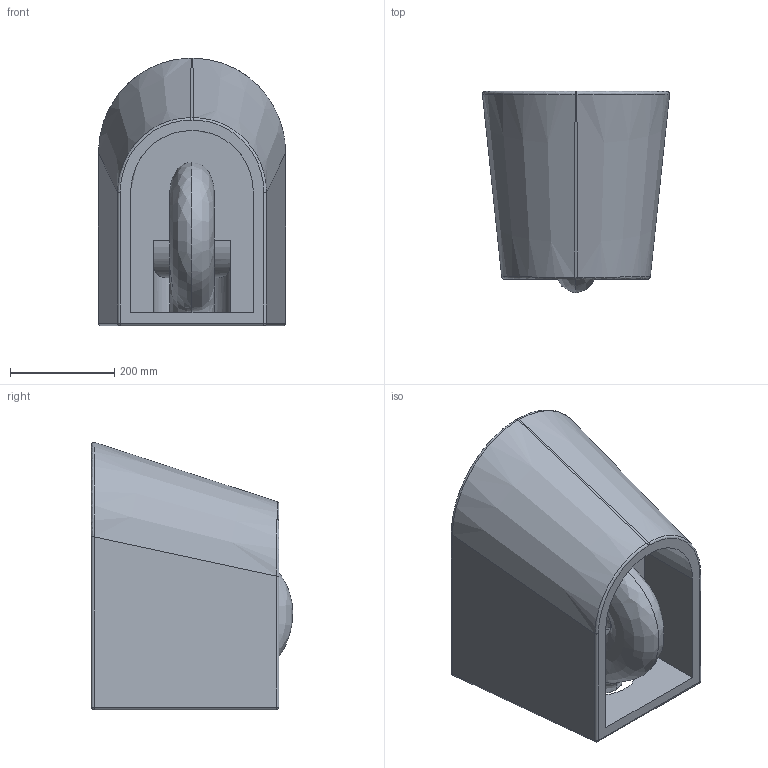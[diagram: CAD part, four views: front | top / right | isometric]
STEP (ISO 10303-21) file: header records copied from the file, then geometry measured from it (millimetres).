
FILE_DESCRIPTION((''),'2;1');
FILE_NAME('053E-TAOCI','2019-01-07T',('Administrator'),(''),'CREO PARAMETRIC BY PTC INC, 2016050','CREO PARAMETRIC BY PTC INC, 2016050','');
FILE_SCHEMA(('CONFIG_CONTROL_DESIGN'));
Length unit declared in the file: millimetre
Products named in the file (1): 053E-TAOCI
Bounding box: 358.87 x 386.5 x 513.12 mm (x, y, z)
Volume: 25248125.8 mm3; surface area: 1363573.5 mm2
Topology: 1 solids, 2 shells, 239 faces, 551 edges, 323 vertices
Faces by surface type: cylinder 91, bspline 54, plane 48, torus 34, extrusion 6, sphere 4, cone 2
Entity records: 19089 total; most frequent: CARTESIAN_POINT 13849, ORIENTED_EDGE 1098, DIRECTION 1079, EDGE_CURVE 551, AXIS2_PLACEMENT_3D 437, VERTEX_POINT 323, CIRCLE 257, EDGE_LOOP 253
